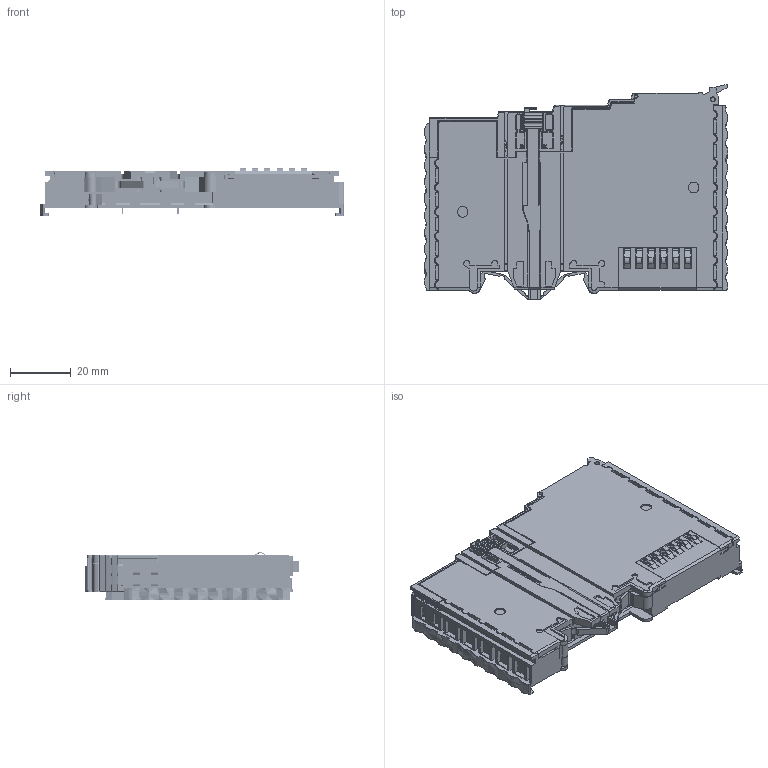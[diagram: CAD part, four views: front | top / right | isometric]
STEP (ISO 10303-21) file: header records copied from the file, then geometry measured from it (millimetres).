
FILE_DESCRIPTION((''),'2;1');
FILE_NAME('16_IO_','2022-03-24T',('Administrator'),(''),'PRO/ENGINEER BY PARAMETRIC TECHNOLOGY CORPORATION, 2015280','PRO/ENGINEER BY PARAMETRIC TECHNOLOGY CORPORATION, 2015280','');
FILE_SCHEMA(('CONFIG_CONTROL_DESIGN'));
Products named in the file (1): 16_IO_
Bounding box: 100 x 70.67 x 15.86 mm (x, y, z)
Surface area: 41645 mm2
Topology: 16 solids, 27 shells, 6210 faces, 17612 edges, 11287 vertices
Faces by surface type: plane 3347, cylinder 1859, torus 338, cone 320, bspline 194, sphere 150, extrusion 2
Entity records: 211983 total; most frequent: CARTESIAN_POINT 50501, ORIENTED_EDGE 34809, DIRECTION 33105, EDGE_CURVE 17459, VECTOR 11365, LINE 11363, VERTEX_POINT 11288, AXIS2_PLACEMENT_3D 10870
